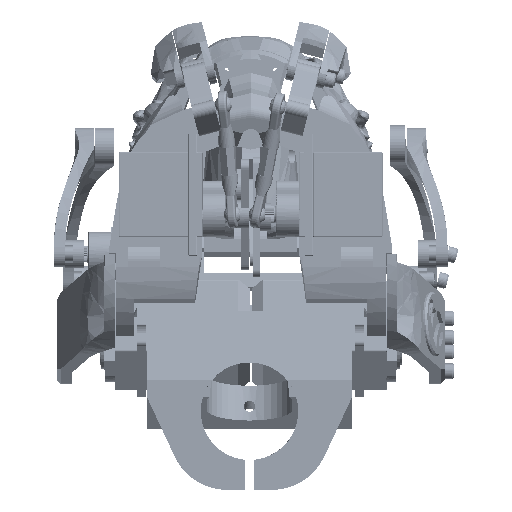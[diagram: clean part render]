
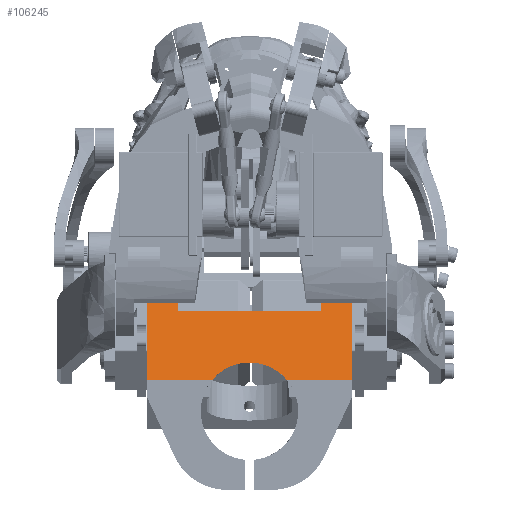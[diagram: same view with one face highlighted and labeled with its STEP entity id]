
A CAD part, front view. The second image highlights one B-rep face of the part: STEP entity #106245.
In plain terms, the highlighted planar face has unit normal (0, -0.966, 0.259).
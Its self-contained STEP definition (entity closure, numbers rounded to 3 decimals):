
#6573=ELLIPSE('',#113375,13.459,13.);
#19424=FACE_OUTER_BOUND('',#25735,.T.);
#25735=EDGE_LOOP('',(#93785,#93786,#93787,#93788,#93789,#93790,#93791,#93792,
#93793,#93794));
#34324=LINE('',#266899,#42921);
#34339=LINE('',#266953,#42936);
#34341=LINE('',#266959,#42938);
#34353=LINE('',#266984,#42950);
#34371=LINE('',#267021,#42968);
#34381=LINE('',#267040,#42978);
#34409=LINE('',#267218,#43006);
#34427=LINE('',#267273,#43024);
#34428=LINE('',#267275,#43025);
#42921=VECTOR('',#133039,10.);
#42936=VECTOR('',#133088,10.);
#42938=VECTOR('',#133094,10.);
#42950=VECTOR('',#133110,10.);
#42968=VECTOR('',#133144,10.);
#42978=VECTOR('',#133158,10.);
#43006=VECTOR('',#133232,10.);
#43024=VECTOR('',#133300,10.);
#43025=VECTOR('',#133303,10.);
#52144=VERTEX_POINT('',#266884);
#52150=VERTEX_POINT('',#266897);
#52159=VERTEX_POINT('',#266920);
#52165=VERTEX_POINT('',#266933);
#52171=VERTEX_POINT('',#266950);
#52172=VERTEX_POINT('',#266952);
#52174=VERTEX_POINT('',#266958);
#52185=VERTEX_POINT('',#266982);
#52203=VERTEX_POINT('',#267038);
#52234=VERTEX_POINT('',#267217);
#66205=EDGE_CURVE('',#52150,#52144,#34324,.T.);
#66223=EDGE_CURVE('',#52159,#52165,#6573,.T.);
#66231=EDGE_CURVE('',#52172,#52171,#34339,.T.);
#66234=EDGE_CURVE('',#52174,#52172,#34341,.T.);
#66247=EDGE_CURVE('',#52171,#52185,#34353,.T.);
#66266=EDGE_CURVE('',#52150,#52174,#34371,.T.);
#66276=EDGE_CURVE('',#52185,#52203,#34381,.T.);
#66319=EDGE_CURVE('',#52159,#52234,#34409,.T.);
#66346=EDGE_CURVE('',#52144,#52165,#34427,.T.);
#66347=EDGE_CURVE('',#52203,#52234,#34428,.T.);
#93785=ORIENTED_EDGE('',*,*,#66247,.T.);
#93786=ORIENTED_EDGE('',*,*,#66276,.T.);
#93787=ORIENTED_EDGE('',*,*,#66347,.T.);
#93788=ORIENTED_EDGE('',*,*,#66319,.F.);
#93789=ORIENTED_EDGE('',*,*,#66223,.T.);
#93790=ORIENTED_EDGE('',*,*,#66346,.F.);
#93791=ORIENTED_EDGE('',*,*,#66205,.F.);
#93792=ORIENTED_EDGE('',*,*,#66266,.T.);
#93793=ORIENTED_EDGE('',*,*,#66234,.T.);
#93794=ORIENTED_EDGE('',*,*,#66231,.T.);
#101028=PLANE('',#113469);
#106245=ADVANCED_FACE('',(#19424),#101028,.F.);
#113375=AXIS2_PLACEMENT_3D('',#266935,#133071,#133072);
#113469=AXIS2_PLACEMENT_3D('',#267325,#133368,#133369);
#133039=DIRECTION('',(0.,-0.259,-0.966));
#133071=DIRECTION('center_axis',(0.,0.966,
-0.259));
#133072=DIRECTION('ref_axis',(0.,0.259,0.966));
#133088=DIRECTION('',(-1.,0.,0.));
#133094=DIRECTION('',(0.,-0.259,-0.966));
#133110=DIRECTION('',(0.,0.259,0.966));
#133144=DIRECTION('',(-1.,0.,0.));
#133158=DIRECTION('',(-1.,0.,0.));
#133232=DIRECTION('',(-1.,0.,0.));
#133300=DIRECTION('',(-1.,0.,0.));
#133303=DIRECTION('',(0.,-0.259,-0.966));
#133368=DIRECTION('center_axis',(0.,0.966,
-0.259));
#133369=DIRECTION('ref_axis',(0.,0.259,0.966));
#266884=CARTESIAN_POINT('',(27.392,-31.125,-9.742));
#266897=CARTESIAN_POINT('',(27.392,-24.38,15.43));
#266899=CARTESIAN_POINT('',(27.392,-24.38,15.43));
#266920=CARTESIAN_POINT('',(-9.937,-31.125,-9.742));
#266933=CARTESIAN_POINT('',(9.937,-31.125,-9.742));
#266935=CARTESIAN_POINT('Origin',(0.,-33.371,-18.125));
#266950=CARTESIAN_POINT('',(-19.,-26.237,8.501));
#266952=CARTESIAN_POINT('',(19.,-26.237,8.501));
#266953=CARTESIAN_POINT('',(0.,-26.237,8.501));
#266958=CARTESIAN_POINT('',(19.,-24.38,15.43));
#266959=CARTESIAN_POINT('',(19.,-25.983,9.447));
#266982=CARTESIAN_POINT('',(-19.,-24.38,15.43));
#266984=CARTESIAN_POINT('',(-19.,-25.983,9.447));
#267021=CARTESIAN_POINT('',(27.392,-24.38,15.43));
#267038=CARTESIAN_POINT('',(-27.392,-24.38,15.43));
#267040=CARTESIAN_POINT('',(27.392,-24.38,15.43));
#267217=CARTESIAN_POINT('',(-27.392,-31.125,-9.742));
#267218=CARTESIAN_POINT('',(27.392,-31.125,-9.742));
#267273=CARTESIAN_POINT('',(27.392,-31.125,-9.742));
#267275=CARTESIAN_POINT('',(-27.392,-24.38,15.43));
#267325=CARTESIAN_POINT('Origin',(-27.392,-31.125,-9.742));
